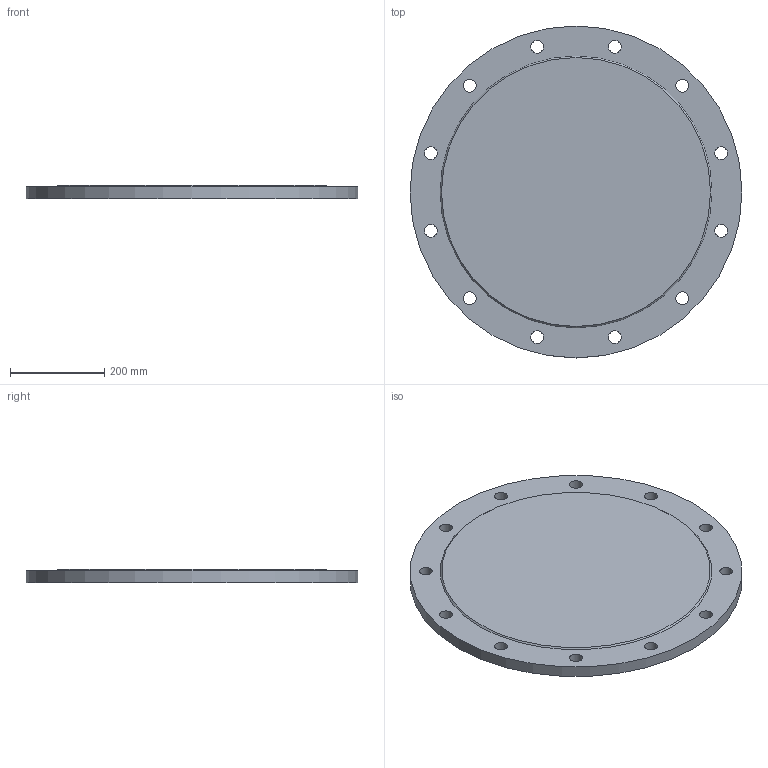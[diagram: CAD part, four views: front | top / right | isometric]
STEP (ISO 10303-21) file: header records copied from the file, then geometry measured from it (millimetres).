
FILE_DESCRIPTION(/* description */ (''),/* implementation_level */ '2;1');
FILE_NAME(/* name */ 'C:\Users\D\Documents\Inventor\HP\JIS\フランジ\水道用フランジF12\BL\ffws_bl_500.stp',/* time_stamp */ '2024-08-28T10:09:15+09:00',/* author */ ('D'),/* organization */ (''),/* preprocessor_version */ 'ST-DEVELOPER v18',/* originating_system */ 'Autodesk Inventor 2020',/* authorisation */ '');
FILE_SCHEMA (('AUTOMOTIVE_DESIGN { 1 0 10303 214 3 1 1 }'));
Length unit declared in the file: millimetre
Products named in the file (1): ffws_pl_80
Bounding box: 706 x 706 x 28 mm (x, y, z)
Volume: 10394025.3 mm3; surface area: 852340.8 mm2
Topology: 1 solids, 1 shells, 17 faces, 58 edges, 44 vertices
Faces by surface type: cylinder 13, plane 3, cone 1
Full cylindrical faces by diameter (mm): 27 x12, 706 x1
Entity records: 773 total; most frequent: DIRECTION 138, CARTESIAN_POINT 120, ORIENTED_EDGE 116, AXIS2_PLACEMENT_3D 62, EDGE_CURVE 58, CIRCLE 44, VERTEX_POINT 44, EDGE_LOOP 42
